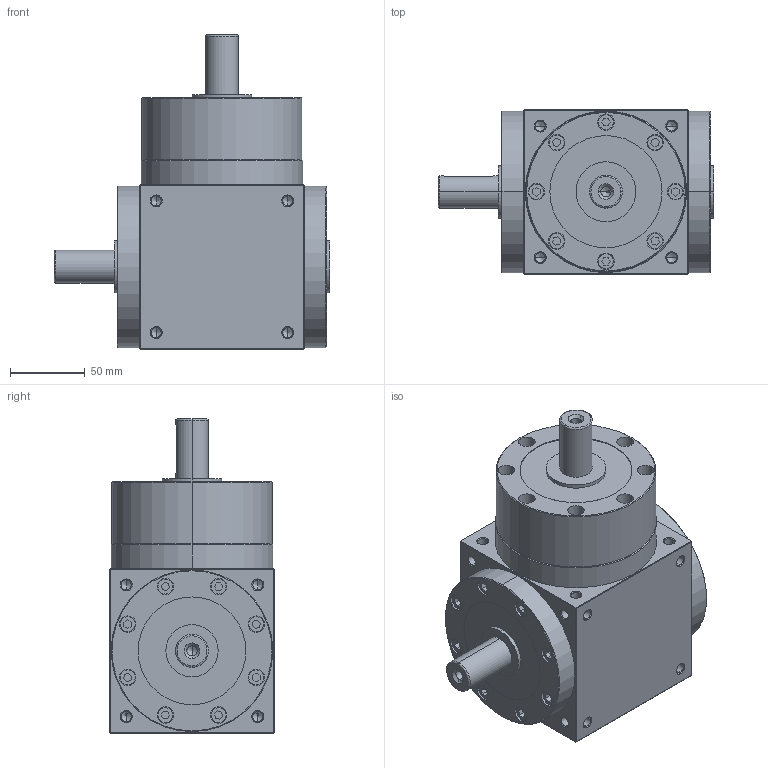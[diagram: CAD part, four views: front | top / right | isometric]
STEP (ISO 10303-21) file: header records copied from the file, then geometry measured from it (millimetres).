
FILE_DESCRIPTION (( 'STEP AP203' ), '1' );
FILE_NAME ('AT120-FL1-L1-1-S2-P2.STEP', '2025-12-20T06:50:00', ( 'Windows User' ), ( 'P R C' ), 'SwSTEP 2.0', 'SolidWorks 2016', '' );
FILE_SCHEMA (( 'CONFIG_CONTROL_DESIGN' ));
Length unit declared in the file: millimetre
Products named in the file (3): AT120-转角箱体-左-单轴输出_1; AT120-输入端-批量; AT120-FL1-L1-1-S2-P2
Assembly tree (2 placements, depth 2):
  AT120-FL1-L1-1-S2-P2
    AT120-转角箱体-左-单轴输出_1
    AT120-输入端-批量
Bounding box: 184 x 110 x 210 mm (x, y, z)
Volume: 1433227.8 mm3; surface area: 203451.4 mm2
Topology: 2 solids, 14 shells, 1352 faces, 3483 edges, 2210 vertices
Faces by surface type: plane 723, cylinder 301, cone 208, bspline 120
Entity records: 45433 total; most frequent: CARTESIAN_POINT 13510, ORIENTED_EDGE 6798, DIRECTION 6061, EDGE_CURVE 3399, VECTOR 2261, LINE 2261, VERTEX_POINT 2210, AXIS2_PLACEMENT_3D 1900
